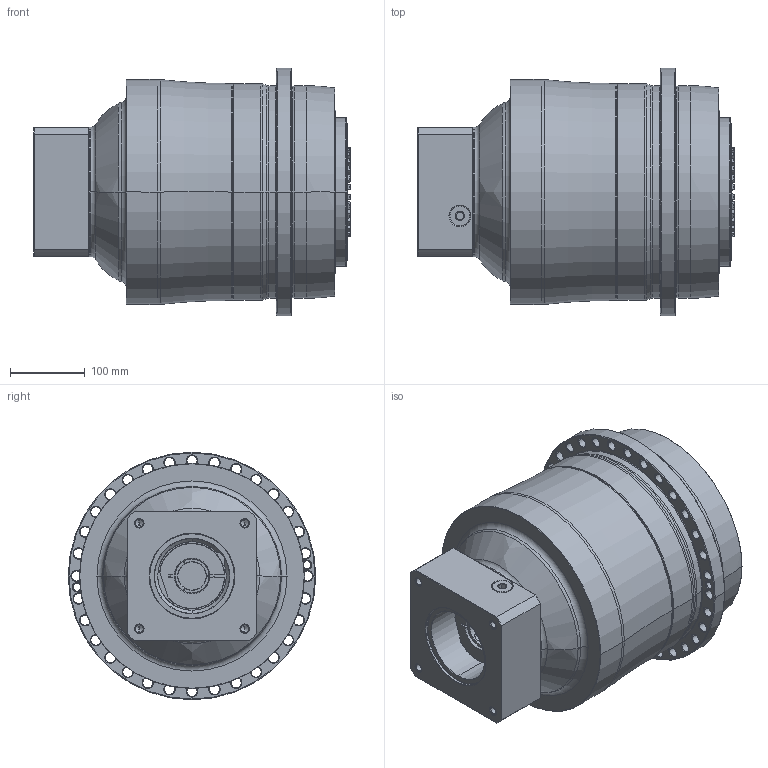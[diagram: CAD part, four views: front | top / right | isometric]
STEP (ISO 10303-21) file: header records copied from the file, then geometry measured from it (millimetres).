
FILE_DESCRIPTION((''),'2;1');
FILE_NAME('APC285_3ST_38-P0409910201_ASM','2018-07-05T',('d01226'),(''),'PRO/ENGINEER BY PARAMETRIC TECHNOLOGY CORPORATION, 2008410','PRO/ENGINEER BY PARAMETRIC TECHNOLOGY CORPORATION, 2008410','');
FILE_SCHEMA(('CONFIG_CONTROL_DESIGN'));
Length unit declared in the file: millimetre
Products named in the file (9): P0278801003; P03598G0103; P1366800201; P0503900012; P0912602001; P1211800001; P0409910201; 21711422019; APC285_3ST_38-P0409910201_ASM
Assembly tree (8 placements, depth 2):
  APC285_3ST_38-P0409910201_ASM
    P0278801003
    P03598G0103
    P1366800201
    P0503900012
    P0912602001
    P1211800001
    P0409910201
    21711422019
Bounding box: 424.6 x 332 x 332 mm (x, y, z)
Volume: 22949399.5 mm3; surface area: 1053952.7 mm2
Topology: 9 solids, 21 shells, 809 faces, 1986 edges, 1215 vertices
Faces by surface type: cone 288, cylinder 230, plane 144, torus 131, bspline 16
Entity records: 29440 total; most frequent: CARTESIAN_POINT 9899, DIRECTION 4361, ORIENTED_EDGE 3886, EDGE_CURVE 1968, AXIS2_PLACEMENT_3D 1913, VERTEX_POINT 1215, CIRCLE 1091, EDGE_LOOP 929
